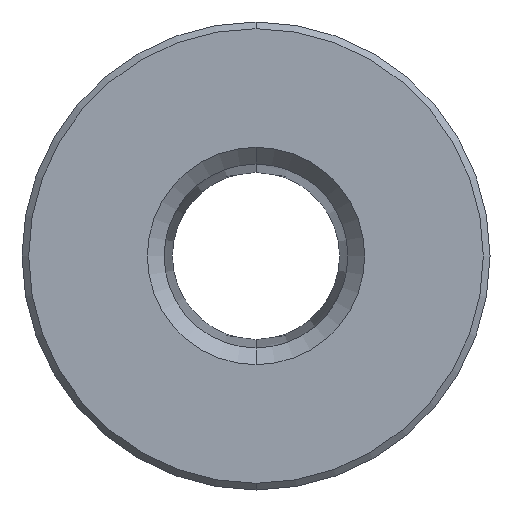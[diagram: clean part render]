
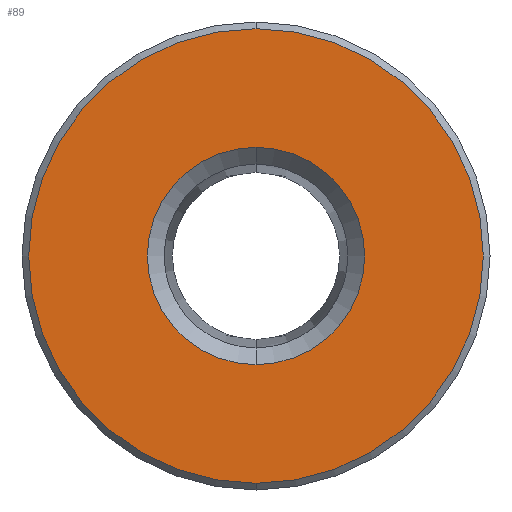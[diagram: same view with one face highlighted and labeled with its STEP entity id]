
A CAD part, front view. The second image highlights one B-rep face of the part: STEP entity #89.
In plain terms, the highlighted planar face has unit normal (0, -1, 0).
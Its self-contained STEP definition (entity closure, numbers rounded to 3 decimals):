
#14 = CARTESIAN_POINT ( 'NONE',  ( 0., 0., 3.25 ) ) ;
#41 = CARTESIAN_POINT ( 'NONE',  ( 0., 0., 0. ) ) ;
#46 = CIRCLE ( 'NONE', #99, 3.25 ) ;
#58 = CARTESIAN_POINT ( 'NONE',  ( 0., 0., 0. ) ) ;
#59 = CIRCLE ( 'NONE', #403, 3.25 ) ;
#73 = CARTESIAN_POINT ( 'NONE',  ( 0., 0., 0. ) ) ;
#89 = ADVANCED_FACE ( 'NONE', ( #201, #542 ), #445, .T. ) ;
#99 = AXIS2_PLACEMENT_3D ( 'NONE', #58, #361, #259 ) ;
#105 = DIRECTION ( 'NONE',  ( 0., -1., 0. ) ) ;
#118 = EDGE_CURVE ( 'NONE', #246, #168, #59, .T. ) ;
#157 = CARTESIAN_POINT ( 'NONE',  ( 0., 0., 0. ) ) ;
#168 = VERTEX_POINT ( 'NONE', #245 ) ;
#182 = CIRCLE ( 'NONE', #266, 6.8 ) ;
#201 = FACE_BOUND ( 'NONE', #392, .T. ) ;
#205 = ORIENTED_EDGE ( 'NONE', *, *, #383, .T. ) ;
#209 = EDGE_CURVE ( 'NONE', #168, #246, #46, .T. ) ;
#226 = DIRECTION ( 'NONE',  ( 0., 0., -1. ) ) ;
#245 = CARTESIAN_POINT ( 'NONE',  ( 0., 0., -3.25 ) ) ;
#246 = VERTEX_POINT ( 'NONE', #14 ) ;
#247 = AXIS2_PLACEMENT_3D ( 'NONE', #289, #105, #409 ) ;
#249 = DIRECTION ( 'NONE',  ( 0., -1., 0. ) ) ;
#259 = DIRECTION ( 'NONE',  ( 0., 0., -1. ) ) ;
#261 = DIRECTION ( 'NONE',  ( 0., 1., 0. ) ) ;
#266 = AXIS2_PLACEMENT_3D ( 'NONE', #157, #249, #546 ) ;
#288 = VERTEX_POINT ( 'NONE', #540 ) ;
#289 = CARTESIAN_POINT ( 'NONE',  ( -7., 0., 0. ) ) ;
#295 = CARTESIAN_POINT ( 'NONE',  ( 0., 0., -6.8 ) ) ;
#307 = EDGE_LOOP ( 'NONE', ( #205, #587 ) ) ;
#361 = DIRECTION ( 'NONE',  ( 0., 1., 0. ) ) ;
#370 = DIRECTION ( 'NONE',  ( 0., -1., 0. ) ) ;
#383 = EDGE_CURVE ( 'NONE', #288, #570, #468, .T. ) ;
#392 = EDGE_LOOP ( 'NONE', ( #417, #556 ) ) ;
#403 = AXIS2_PLACEMENT_3D ( 'NONE', #41, #261, #547 ) ;
#409 = DIRECTION ( 'NONE',  ( 0., 0., -1. ) ) ;
#417 = ORIENTED_EDGE ( 'NONE', *, *, #209, .T. ) ;
#445 = PLANE ( 'NONE',  #247 ) ;
#468 = CIRCLE ( 'NONE', #613, 6.8 ) ;
#540 = CARTESIAN_POINT ( 'NONE',  ( 0., 0., 6.8 ) ) ;
#542 = FACE_OUTER_BOUND ( 'NONE', #307, .T. ) ;
#546 = DIRECTION ( 'NONE',  ( 0., 0., -1. ) ) ;
#547 = DIRECTION ( 'NONE',  ( 0., 0., -1. ) ) ;
#556 = ORIENTED_EDGE ( 'NONE', *, *, #118, .T. ) ;
#570 = VERTEX_POINT ( 'NONE', #295 ) ;
#587 = ORIENTED_EDGE ( 'NONE', *, *, #609, .T. ) ;
#609 = EDGE_CURVE ( 'NONE', #570, #288, #182, .T. ) ;
#613 = AXIS2_PLACEMENT_3D ( 'NONE', #73, #370, #226 ) ;
